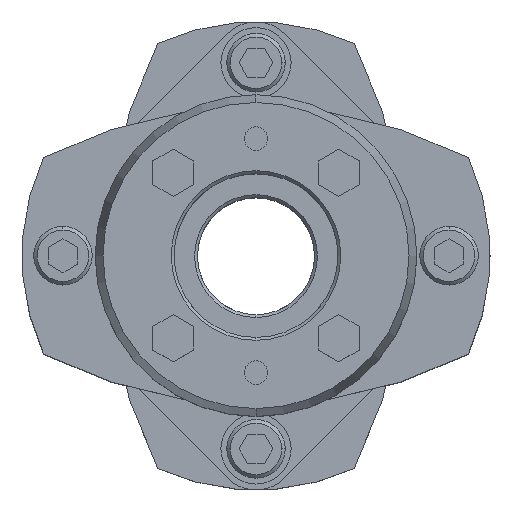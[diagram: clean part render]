
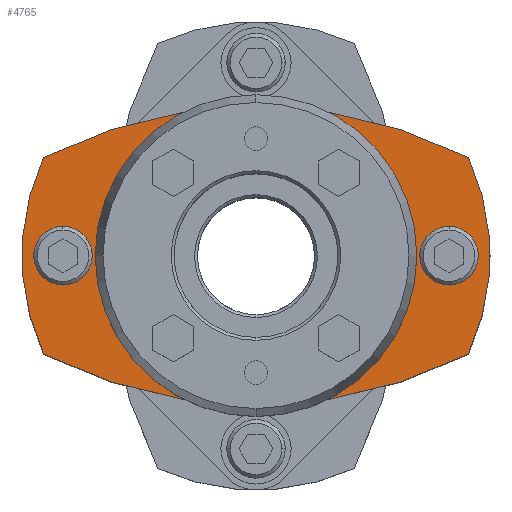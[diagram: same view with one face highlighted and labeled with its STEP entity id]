
A CAD part, top view. The second image highlights one B-rep face of the part: STEP entity #4765.
In plain terms, the highlighted planar face has unit normal (0, 0, 1).
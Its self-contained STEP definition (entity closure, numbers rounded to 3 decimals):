
#2207=CARTESIAN_POINT('',(0.,25.5,19.25));
#2208=VERTEX_POINT('',#2207);
#2224=CARTESIAN_POINT('',(-36.307,16.787,19.25));
#2225=VERTEX_POINT('',#2224);
#2232=CARTESIAN_POINT('',(0.,-54.5,19.25));
#2233=DIRECTION('',(0.0,0.0,-1.0));
#2234=DIRECTION('',(0.,1.0,0.0));
#2235=AXIS2_PLACEMENT_3D('',#2232,#2233,#2234);
#2236=CIRCLE('',#2235,80.);
#2237=EDGE_CURVE('',#2225,#2208,#2236,.T.);
#2247=CARTESIAN_POINT('',(0.,-25.5,19.25));
#2248=VERTEX_POINT('',#2247);
#2257=CARTESIAN_POINT('',(-36.307,-16.787,19.25));
#2258=VERTEX_POINT('',#2257);
#2259=CARTESIAN_POINT('',(0.,54.5,19.25));
#2260=DIRECTION('',(0.0,0.0,-1.0));
#2261=DIRECTION('',(0.,1.0,0.0));
#2262=AXIS2_PLACEMENT_3D('',#2259,#2260,#2261);
#2263=CIRCLE('',#2262,80.);
#2264=EDGE_CURVE('',#2248,#2258,#2263,.T.);
#2513=CARTESIAN_POINT('',(0.,24.,19.25));
#2514=VERTEX_POINT('',#2513);
#2564=CARTESIAN_POINT('',(0.,-24.,19.25));
#2565=VERTEX_POINT('',#2564);
#2572=CARTESIAN_POINT('',(0.,0.,19.25));
#2573=DIRECTION('',(0.0,0.0,-1.0));
#2574=DIRECTION('',(0.,1.0,0.0));
#2575=AXIS2_PLACEMENT_3D('',#2572,#2573,#2574);
#2576=CIRCLE('',#2575,24.0);
#2577=EDGE_CURVE('',#2514,#2565,#2576,.T.);
#2673=CARTESIAN_POINT('',(33.,5.,19.25));
#2674=VERTEX_POINT('',#2673);
#2690=CARTESIAN_POINT('',(33.,-5.,19.25));
#2691=VERTEX_POINT('',#2690);
#2698=CARTESIAN_POINT('',(33.,0.,19.25));
#2699=DIRECTION('',(0.0,0.0,-1.0));
#2700=DIRECTION('',(0.,1.0,0.0));
#2701=AXIS2_PLACEMENT_3D('',#2698,#2699,#2700);
#2702=CIRCLE('',#2701,5.0);
#2703=EDGE_CURVE('',#2674,#2691,#2702,.T.);
#2747=CARTESIAN_POINT('',(-33.,5.,19.25));
#2748=VERTEX_POINT('',#2747);
#2764=CARTESIAN_POINT('',(-33.,-5.,19.25));
#2765=VERTEX_POINT('',#2764);
#2772=CARTESIAN_POINT('',(-33.,0.,19.25));
#2773=DIRECTION('',(0.0,0.0,-1.0));
#2774=DIRECTION('',(0.,1.0,0.0));
#2775=AXIS2_PLACEMENT_3D('',#2772,#2773,#2774);
#2776=CIRCLE('',#2775,5.0);
#2777=EDGE_CURVE('',#2748,#2765,#2776,.T.);
#3316=CARTESIAN_POINT('',(-33.,0.,19.25));
#3317=DIRECTION('',(0.0,0.0,-1.0));
#3318=DIRECTION('',(0.,1.0,0.0));
#3319=AXIS2_PLACEMENT_3D('',#3316,#3317,#3318);
#3320=CIRCLE('',#3319,5.0);
#3321=EDGE_CURVE('',#2765,#2748,#3320,.T.);
#3376=CARTESIAN_POINT('',(33.,0.,19.25));
#3377=DIRECTION('',(0.0,0.0,-1.0));
#3378=DIRECTION('',(0.,1.0,0.0));
#3379=AXIS2_PLACEMENT_3D('',#3376,#3377,#3378);
#3380=CIRCLE('',#3379,5.0);
#3381=EDGE_CURVE('',#2691,#2674,#3380,.T.);
#4448=CARTESIAN_POINT('',(0.,0.,19.25));
#4449=DIRECTION('',(0.0,0.0,-1.0));
#4450=DIRECTION('',(0.,1.0,0.0));
#4451=AXIS2_PLACEMENT_3D('',#4448,#4449,#4450);
#4452=CIRCLE('',#4451,24.0);
#4453=EDGE_CURVE('',#2565,#2514,#4452,.T.);
#4661=CARTESIAN_POINT('',(36.307,-16.787,19.25));
#4662=VERTEX_POINT('',#4661);
#4669=CARTESIAN_POINT('',(0.,54.5,19.25));
#4670=DIRECTION('',(0.0,0.0,-1.0));
#4671=DIRECTION('',(0.,1.0,0.0));
#4672=AXIS2_PLACEMENT_3D('',#4669,#4670,#4671);
#4673=CIRCLE('',#4672,80.);
#4674=EDGE_CURVE('',#4662,#2248,#4673,.T.);
#4684=CARTESIAN_POINT('',(0.,0.,19.25));
#4685=DIRECTION('',(0.0,0.0,-1.0));
#4686=DIRECTION('',(0.,1.0,0.0));
#4687=AXIS2_PLACEMENT_3D('',#4684,#4685,#4686);
#4688=CIRCLE('',#4687,40.);
#4689=EDGE_CURVE('',#2258,#2225,#4688,.T.);
#4703=CARTESIAN_POINT('',(36.307,16.787,19.25));
#4704=VERTEX_POINT('',#4703);
#4705=CARTESIAN_POINT('',(0.,-54.5,19.25));
#4706=DIRECTION('',(0.0,0.0,-1.0));
#4707=DIRECTION('',(0.,1.0,0.0));
#4708=AXIS2_PLACEMENT_3D('',#4705,#4706,#4707);
#4709=CIRCLE('',#4708,80.);
#4710=EDGE_CURVE('',#2208,#4704,#4709,.T.);
#4727=CARTESIAN_POINT('',(0.,0.,19.25));
#4728=DIRECTION('',(0.0,0.0,-1.0));
#4729=DIRECTION('',(0.,1.0,0.0));
#4730=AXIS2_PLACEMENT_3D('',#4727,#4728,#4729);
#4731=CIRCLE('',#4730,40.);
#4732=EDGE_CURVE('',#4704,#4662,#4731,.T.);
#4740=CARTESIAN_POINT('',(0.,0.,19.25));
#4741=DIRECTION('',(0.0,0.0,1.0));
#4742=DIRECTION('',(0.,1.0,0.0));
#4743=AXIS2_PLACEMENT_3D('',#4740,#4741,#4742);
#4744=PLANE('',#4743);
#4745=ORIENTED_EDGE('',*,*,#4674,.F.);
#4746=ORIENTED_EDGE('',*,*,#4732,.F.);
#4747=ORIENTED_EDGE('',*,*,#4710,.F.);
#4748=ORIENTED_EDGE('',*,*,#2237,.F.);
#4749=ORIENTED_EDGE('',*,*,#4689,.F.);
#4750=ORIENTED_EDGE('',*,*,#2264,.F.);
#4751=EDGE_LOOP('',(#4745,#4746,#4747,#4748,#4749,#4750));
#4752=FACE_OUTER_BOUND('',#4751,.T.);
#4753=ORIENTED_EDGE('',*,*,#2777,.T.);
#4754=ORIENTED_EDGE('',*,*,#3321,.T.);
#4755=EDGE_LOOP('',(#4753,#4754));
#4756=FACE_BOUND('',#4755,.T.);
#4757=ORIENTED_EDGE('',*,*,#2703,.T.);
#4758=ORIENTED_EDGE('',*,*,#3381,.T.);
#4759=EDGE_LOOP('',(#4757,#4758));
#4760=FACE_BOUND('',#4759,.T.);
#4761=ORIENTED_EDGE('',*,*,#2577,.T.);
#4762=ORIENTED_EDGE('',*,*,#4453,.T.);
#4763=EDGE_LOOP('',(#4761,#4762));
#4764=FACE_BOUND('',#4763,.T.);
#4765=ADVANCED_FACE('',(#4752,#4756,#4760,#4764),#4744,.T.);
